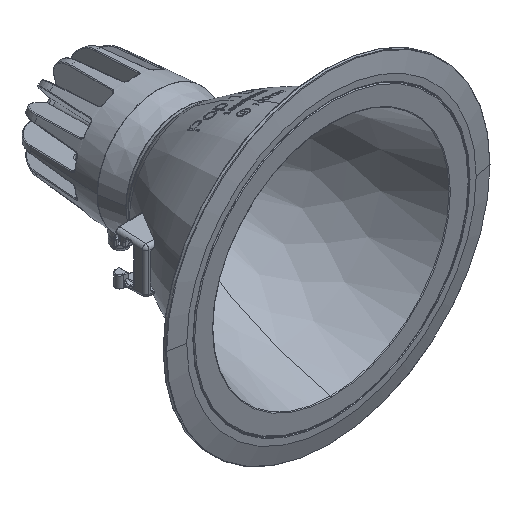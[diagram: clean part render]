
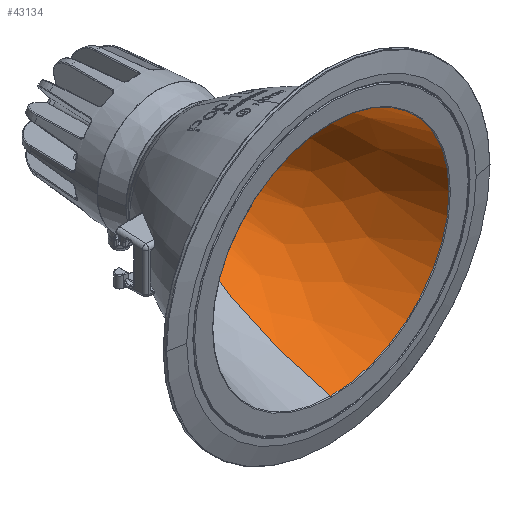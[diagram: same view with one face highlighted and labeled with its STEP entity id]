
A CAD part, isometric view. The second image highlights one B-rep face of the part: STEP entity #43134.
In plain terms, the highlighted face is a revolution surface.
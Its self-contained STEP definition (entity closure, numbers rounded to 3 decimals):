
#30793=CARTESIAN_POINT('',(0.,-59.339,0.));
#30794=DIRECTION('',(0.,-1.,0.));
#30795=DIRECTION('',(0.,0.,-1.));
#30796=AXIS2_PLACEMENT_3D('',#30793,#30794,#30795);
#30798=CARTESIAN_POINT('',(0.,-2.31,0.));
#30799=DIRECTION('',(0.,-1.,0.));
#30800=DIRECTION('',(0.,0.,-1.));
#30801=AXIS2_PLACEMENT_3D('',#30798,#30799,#30800);
#32966=CARTESIAN_POINT('',(0.,-59.339,
47.37));
#32967=CARTESIAN_POINT('',(0.,-37.246,
42.985));
#32968=CARTESIAN_POINT('',(0.,-18.236,34.258));
#32969=CARTESIAN_POINT('',(0.,-2.31,21.19));
#32976=CARTESIAN_POINT('',(0.,-59.339,-47.37));
#32977=CARTESIAN_POINT('',(0.,-37.246,-42.985));
#32978=CARTESIAN_POINT('',(0.,-18.236,
-34.258));
#32979=CARTESIAN_POINT('',(0.,-2.31,-21.19));
#42374=CARTESIAN_POINT('',(0.,-2.31,21.19));
#42375=CARTESIAN_POINT('',(0.,-2.31,-21.19));
#42376=VERTEX_POINT('',#42374);
#42377=VERTEX_POINT('',#42375);
#42386=CARTESIAN_POINT('',(0.,-59.339,47.37));
#42387=CARTESIAN_POINT('',(0.,-59.339,-47.37));
#42388=VERTEX_POINT('',#42386);
#42389=VERTEX_POINT('',#42387);
#43114=CARTESIAN_POINT('',(0.,-59.96,47.492));
#43115=CARTESIAN_POINT('',(0.,-37.551,43.138));
#43116=CARTESIAN_POINT('',(0.,-18.146,34.272));
#43117=CARTESIAN_POINT('',(0.,-1.948,20.892));
#43118=CARTESIAN_POINT('',(0.,-1.822,20.788));
#43120=CARTESIAN_POINT('',(0.,0.,0.));
#43121=DIRECTION('',(0.,1.,0.));
#43122=AXIS1_PLACEMENT('',#43120,#43121);
#43123=SURFACE_OF_REVOLUTION('',#43119,#43122);
#43125=ORIENTED_EDGE('',*,*,#43124,.F.);
#43127=ORIENTED_EDGE('',*,*,#43126,.T.);
#43129=ORIENTED_EDGE('',*,*,#43128,.T.);
#43131=ORIENTED_EDGE('',*,*,#43130,.F.);
#43132=EDGE_LOOP('',(#43125,#43127,#43129,#43131));
#43133=FACE_OUTER_BOUND('',#43132,.F.);
#43134=ADVANCED_FACE('',(#43133),#43123,.F.);
#30797=CIRCLE('',#30796,47.37);
#30802=CIRCLE('',#30801,21.19);
#32970=B_SPLINE_CURVE_WITH_KNOTS('',3,(#32966,#32967,#32968,#32969),
.UNSPECIFIED.,.F.,.F.,(4,4),(0.,1.),.UNSPECIFIED.);
#32980=B_SPLINE_CURVE_WITH_KNOTS('',3,(#32976,#32977,#32978,#32979),
.UNSPECIFIED.,.F.,.F.,(4,4),(0.,1.),.UNSPECIFIED.);
#43119=B_SPLINE_CURVE_WITH_KNOTS('',3,(#43114,#43115,#43116,#43117,#43118),
.UNSPECIFIED.,.F.,.F.,(4,1,4),(0.,0.992,1.),.UNSPECIFIED.);
#43124=EDGE_CURVE('',#42389,#42388,#30797,.T.);
#43126=EDGE_CURVE('',#42389,#42377,#32980,.T.);
#43128=EDGE_CURVE('',#42377,#42376,#30802,.T.);
#43130=EDGE_CURVE('',#42388,#42376,#32970,.T.);
